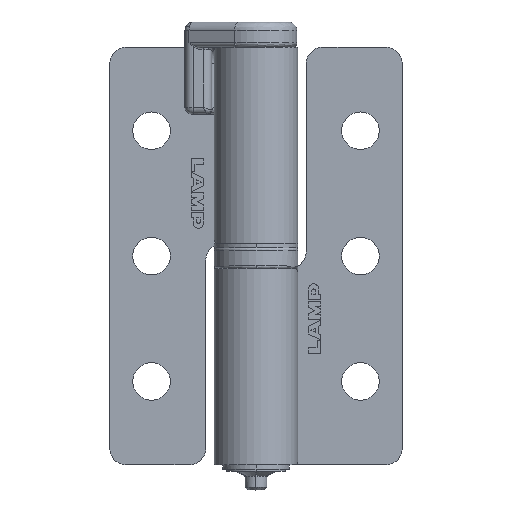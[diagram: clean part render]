
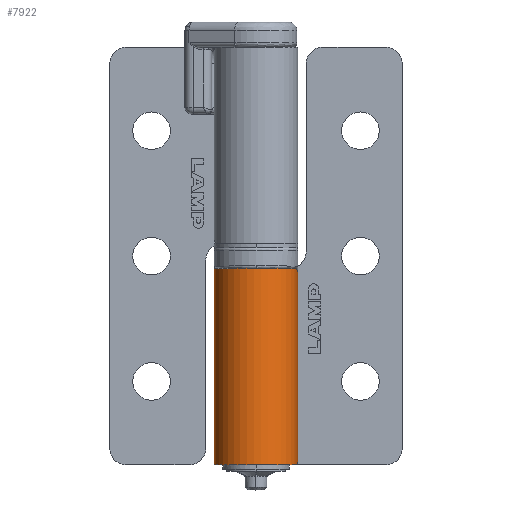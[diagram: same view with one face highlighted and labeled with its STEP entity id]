
A CAD part, top view. The second image highlights one B-rep face of the part: STEP entity #7922.
In plain terms, the highlighted cylindrical face has radius 5 mm (diameter 10 mm), a partial arc.
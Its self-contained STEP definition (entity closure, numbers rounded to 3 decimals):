
#20 = CARTESIAN_POINT ( 'NONE',  ( 14.741, -9.13, -7.941 ) ) ;
#561 = EDGE_LOOP ( 'NONE', ( #8602, #5127, #10931, #9054, #17903, #17904 ) ) ;
#708 = AXIS2_PLACEMENT_3D ( 'NONE', #9109, #898, #12166 ) ;
#898 = DIRECTION ( 'NONE',  ( 1., 0., 0. ) ) ;
#1152 = CARTESIAN_POINT ( 'NONE',  ( -7.47, -9.136, -8.234 ) ) ;
#1533 = CARTESIAN_POINT ( 'NONE',  ( -8.233, -8.719, -6.234 ) ) ;
#1704 = CARTESIAN_POINT ( 'NONE',  ( 15.267, -8.719, -6.234 ) ) ;
#1878 = CARTESIAN_POINT ( 'NONE',  ( -7.595, -9.136, -8.093 ) ) ;
#2288 = FACE_OUTER_BOUND ( 'NONE', #561, .T. ) ;
#2801 = CARTESIAN_POINT ( 'NONE',  ( 16.767, -4.136, -13.234 ) ) ;
#3087 = CARTESIAN_POINT ( 'NONE',  ( 15.267, -4.136, -8.234 ) ) ;
#3457 = EDGE_CURVE ( 'NONE', #11201, #5932, #15824, .T. ) ;
#3485 = CYLINDRICAL_SURFACE ( 'NONE', #708, 5. ) ;
#3578 = B_SPLINE_CURVE_WITH_KNOTS ( 'NONE', 3,
 ( #15920, #1878, #7505, #10369, #14631, #10727, #14715, #17582, #7775, #14805 ),
 .UNSPECIFIED., .F., .F.,
 ( 4, 2, 2, 2, 4 ),
 ( 0., 0.001, 0.001, 0.002, 0.002 ),
 .UNSPECIFIED. ) ;
#3988 = CARTESIAN_POINT ( 'NONE',  ( 15.19, -8.967, -6.932 ) ) ;
#4470 = DIRECTION ( 'NONE',  ( 0., 0., -1. ) ) ;
#5086 = CARTESIAN_POINT ( 'NONE',  ( 15.267, -4.136, -13.234 ) ) ;
#5127 = ORIENTED_EDGE ( 'NONE', *, *, #14640, .F. ) ;
#5314 = CIRCLE ( 'NONE', #7669, 5. ) ;
#5386 = DIRECTION ( 'NONE',  ( -1., 0., 0. ) ) ;
#5394 = CARTESIAN_POINT ( 'NONE',  ( -8.233, -4.136, -13.234 ) ) ;
#5776 = VERTEX_POINT ( 'NONE', #1704 ) ;
#5932 = VERTEX_POINT ( 'NONE', #5086 ) ;
#6680 = AXIS2_PLACEMENT_3D ( 'NONE', #16112, #15742, #14366 ) ;
#6957 = VECTOR ( 'NONE', #17203, 1000. ) ;
#7370 = EDGE_CURVE ( 'NONE', #9884, #8453, #10935, .T. ) ;
#7505 = CARTESIAN_POINT ( 'NONE',  ( -7.706, -9.13, -7.943 ) ) ;
#7669 = AXIS2_PLACEMENT_3D ( 'NONE', #3087, #11583, #4470 ) ;
#7775 = CARTESIAN_POINT ( 'NONE',  ( -8.233, -8.794, -6.407 ) ) ;
#7922 = ADVANCED_FACE ( 'NONE', ( #2288 ), #3485, .T. ) ;
#8336 = CARTESIAN_POINT ( 'NONE',  ( 3.517, -9.136, -8.234 ) ) ;
#8453 = VERTEX_POINT ( 'NONE', #1152 ) ;
#8602 = ORIENTED_EDGE ( 'NONE', *, *, #7370, .F. ) ;
#8714 = B_SPLINE_CURVE_WITH_KNOTS ( 'NONE', 3,
 ( #9790, #15261, #16643, #3988, #9615, #18117, #15438, #20, #10253, #11740 ),
 .UNSPECIFIED., .F., .F.,
 ( 4, 2, 2, 2, 4 ),
 ( 0., 0.001, 0.001, 0.002, 0.002 ),
 .UNSPECIFIED. ) ;
#9054 = ORIENTED_EDGE ( 'NONE', *, *, #3457, .F. ) ;
#9109 = CARTESIAN_POINT ( 'NONE',  ( -8.233, -4.136, -8.234 ) ) ;
#9615 = CARTESIAN_POINT ( 'NONE',  ( 15.142, -9.011, -7.11 ) ) ;
#9790 = CARTESIAN_POINT ( 'NONE',  ( 15.267, -8.719, -6.234 ) ) ;
#9884 = VERTEX_POINT ( 'NONE', #12625 ) ;
#10253 = CARTESIAN_POINT ( 'NONE',  ( 14.628, -9.136, -8.093 ) ) ;
#10369 = CARTESIAN_POINT ( 'NONE',  ( -7.898, -9.102, -7.625 ) ) ;
#10727 = CARTESIAN_POINT ( 'NONE',  ( -8.108, -9.012, -7.111 ) ) ;
#10931 = ORIENTED_EDGE ( 'NONE', *, *, #17063, .T. ) ;
#10935 = LINE ( 'NONE', #8336, #17219 ) ;
#11201 = VERTEX_POINT ( 'NONE', #5394 ) ;
#11370 = EDGE_CURVE ( 'NONE', #12356, #11201, #17593, .T. ) ;
#11583 = DIRECTION ( 'NONE',  ( -1., 0., 0. ) ) ;
#11740 = CARTESIAN_POINT ( 'NONE',  ( 14.503, -9.136, -8.234 ) ) ;
#12166 = DIRECTION ( 'NONE',  ( 0., 0., -1. ) ) ;
#12356 = VERTEX_POINT ( 'NONE', #1533 ) ;
#12625 = CARTESIAN_POINT ( 'NONE',  ( 14.503, -9.136, -8.234 ) ) ;
#14366 = DIRECTION ( 'NONE',  ( 0., 0., -1. ) ) ;
#14631 = CARTESIAN_POINT ( 'NONE',  ( -7.98, -9.078, -7.456 ) ) ;
#14640 = EDGE_CURVE ( 'NONE', #5776, #9884, #8714, .T. ) ;
#14715 = CARTESIAN_POINT ( 'NONE',  ( -8.155, -8.969, -6.937 ) ) ;
#14805 = CARTESIAN_POINT ( 'NONE',  ( -8.233, -8.719, -6.234 ) ) ;
#15261 = CARTESIAN_POINT ( 'NONE',  ( 15.267, -8.794, -6.407 ) ) ;
#15438 = CARTESIAN_POINT ( 'NONE',  ( 14.933, -9.101, -7.621 ) ) ;
#15742 = DIRECTION ( 'NONE',  ( -1., 0., 0. ) ) ;
#15824 = LINE ( 'NONE', #2801, #6957 ) ;
#15920 = CARTESIAN_POINT ( 'NONE',  ( -7.47, -9.136, -8.234 ) ) ;
#16112 = CARTESIAN_POINT ( 'NONE',  ( -8.233, -4.136, -8.234 ) ) ;
#16643 = CARTESIAN_POINT ( 'NONE',  ( 15.252, -8.859, -6.581 ) ) ;
#17063 = EDGE_CURVE ( 'NONE', #5776, #5932, #5314, .T. ) ;
#17120 = EDGE_CURVE ( 'NONE', #8453, #12356, #3578, .T. ) ;
#17203 = DIRECTION ( 'NONE',  ( 1., 0., 0. ) ) ;
#17219 = VECTOR ( 'NONE', #5386, 1000. ) ;
#17582 = CARTESIAN_POINT ( 'NONE',  ( -8.218, -8.86, -6.584 ) ) ;
#17593 = CIRCLE ( 'NONE', #6680, 5. ) ;
#17903 = ORIENTED_EDGE ( 'NONE', *, *, #11370, .F. ) ;
#17904 = ORIENTED_EDGE ( 'NONE', *, *, #17120, .F. ) ;
#18117 = CARTESIAN_POINT ( 'NONE',  ( 15.013, -9.078, -7.454 ) ) ;
